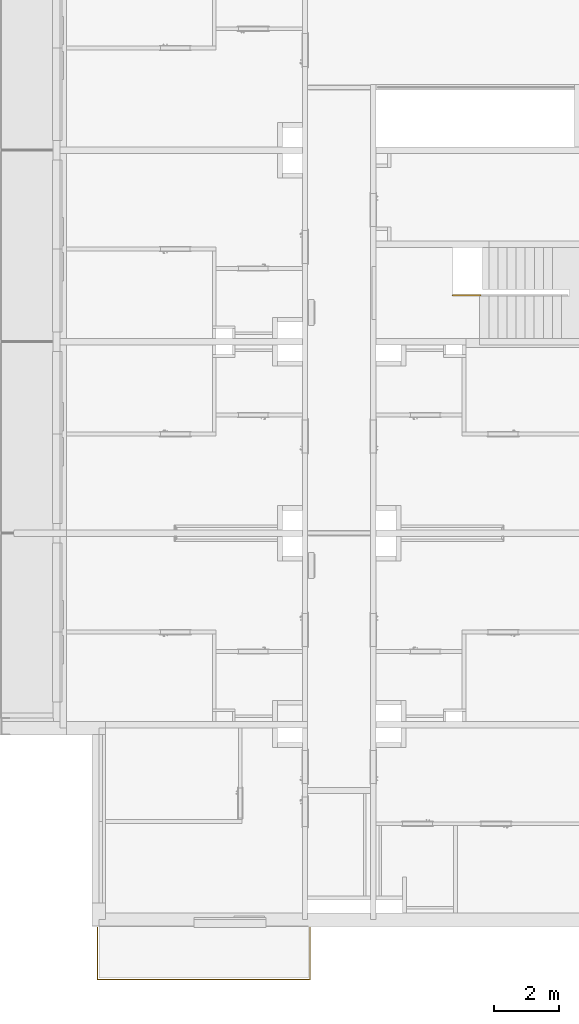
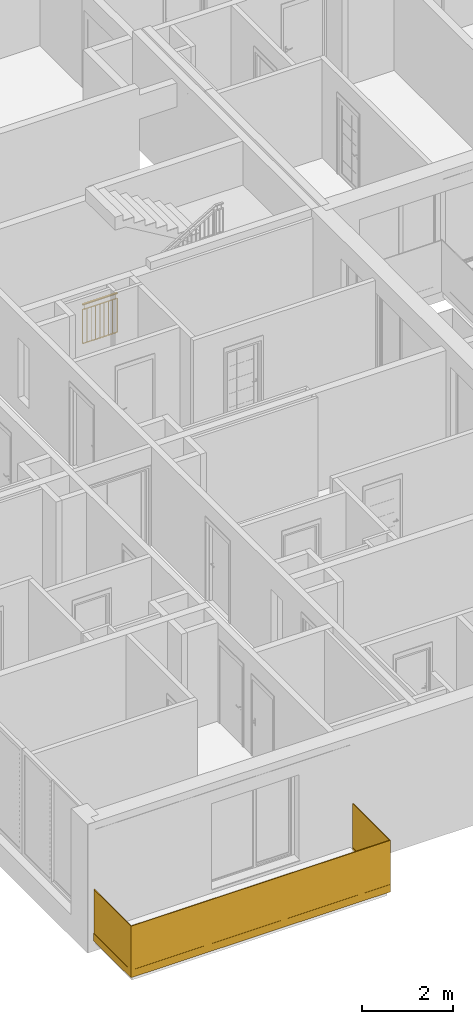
# One storey, part 3 of 67: 2 railings.
"""IFC2X3 building model written with IfcOpenShell, lengths in millimetres."""

from ifc_helpers import new_model, entity, si_unit, converted_unit, derived_unit, money_unit, direction, frame, origin_with_axes, place, context, subcontext, project, spatial, faceted_brep, material, material_list, type_object, element, save


model = new_model("IFC2X3")

# Units and contexts
model_context = context("Model", 3, precision=0.01, world=origin_with_axes(), true_north=direction((0.34421633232, 0.938890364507)))
body_context = subcontext(model_context, "Body", "Model", "MODEL_VIEW")
ifc_project = project(units=[si_unit("LENGTHUNIT", "METRE", prefix="MILLI"), si_unit("AREAUNIT", "SQUARE_METRE"), si_unit("VOLUMEUNIT", "CUBIC_METRE"), converted_unit("PLANEANGLEUNIT", "DEGREE", entity("IfcPlaneAngleMeasure", 0.0174532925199), si_unit("PLANEANGLEUNIT", "RADIAN"), dimensions=[0, 0, 0, 0, 0, 0, 0]), si_unit("SOLIDANGLEUNIT", "STERADIAN"), money_unit("USD"), converted_unit("TIMEUNIT", "Year", entity("IfcTimeMeasure", 31556926.0), si_unit("TIMEUNIT", "SECOND"), dimensions=[0, 0, 1, 0, 0, 0, 0]), si_unit("MASSUNIT", "GRAM", prefix="KILO"), si_unit("THERMODYNAMICTEMPERATUREUNIT", "DEGREE_CELSIUS"), si_unit("LUMINOUSINTENSITYUNIT", "LUMEN"), si_unit("ENERGYUNIT", "JOULE", prefix="MEGA"), derived_unit("THERMALCONDUCTANCEUNIT", [(si_unit("POWERUNIT", "WATT"), 1), (si_unit("LENGTHUNIT", "METRE"), -1), (si_unit("THERMODYNAMICTEMPERATUREUNIT", "KELVIN"), -1)]), derived_unit("SPECIFICHEATCAPACITYUNIT", [(si_unit("ENERGYUNIT", "JOULE"), 1), (si_unit("MASSUNIT", "GRAM", prefix="KILO"), -1), (si_unit("THERMODYNAMICTEMPERATUREUNIT", "KELVIN"), -1)]), derived_unit("MASSDENSITYUNIT", [(si_unit("MASSUNIT", "GRAM", prefix="KILO"), 1), (si_unit("VOLUMEUNIT", "CUBIC_METRE"), -1)])], contexts=[model_context])

# Site, building, storey
site_placement = place(None, origin_with_axes())
site = spatial("IfcSite", under=ifc_project, at=site_placement, Name="USTRONIE MORSKIE", CompositionType="ELEMENT")
building_placement = place(site_placement, origin_with_axes())
building = spatial("IfcBuilding", under=site, at=building_placement, Name="Budynek", CompositionType="ELEMENT")
storey_placement = place(building_placement, frame((0.0, 0.0, 4000.0), z_axis=(0.0, 0.0, 1.0), x_axis=(1.0, 0.0, 0.0)))
storey = spatial("IfcBuildingStorey", under=building, at=storey_placement, Name="PIĘTRO 1", CompositionType="ELEMENT", Elevation=4000.0)

# Railings
ifc_material_1 = material(Name="Szkło struktualne")
ifc_material_2 = material(Name="Profile aluminiowe")
ifc_material_list_1 = material_list([ifc_material_1, ifc_material_2, ifc_material_1, ifc_material_2, ifc_material_1, ifc_material_2])
railing_type = type_object("IfcRailingType", Name="Typ balustrady", PredefinedType="NOTDEFINED")
railing_1_placement = place(storey_placement, frame((357617.920919, 708891.199036, 0.0), z_axis=(0.0, 0.0, 1.0), x_axis=(1.0, 0.0, 0.0)))
element("IfcRailing", 1, at=railing_1_placement, inside=storey, type_object=railing_type, material=ifc_material_list_1, Name="BL1", PredefinedType="NOTDEFINED", context=body_context, shape_type="Brep", body=[
    faceted_brep([(59.9999997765, -19.9999996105, -300.00000039), (59.9999997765, -19.9999996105, 1069.99999972), (59.9999997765, -1649.9999995, 1069.99999972), (59.9999997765, -1649.9999995, -300.00000039), (40.0000002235, -19.9999996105, 1069.99999972), (40.0000002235, -19.9999996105, -300.00000039), (40.0000002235, -1629.99999995, 1069.99999972), (40.0000002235, -1629.99999995, -300.00000039)], [[[0, 1, 2, 3]], [[4, 1, 0, 5]], [[2, 1, 4, 6]], [[3, 2, 6, 7]], [[5, 0, 3, 7]], [[6, 4, 5, 7]]]),
    faceted_brep([(35.0, -1640.0, -105.0), (35.0, -20.0, -105.0), (35.0, -20.0, -305.0), (35.0, -1640.0, -305.0), (40.0, -1640.0, -105.0), (40.0, -20.0, -105.0), (40.0, -20.0, -300.0), (60.0, -20.0, -300.0), (60.0, -20.0, -105.0), (65.0, -20.0, -105.0), (65.0, -20.0, -305.0), (65.0, -1640.0, -305.0), (65.0, -1640.0, -105.0), (60.0, -1640.0, -105.0), (60.0, -1640.0, -300.0), (40.0, -1640.0, -300.0)], [[[0, 1, 2, 3]], [[1, 0, 4, 5]], [[6, 7, 8, 9, 10, 2, 1, 5]], [[10, 11, 3, 2]], [[11, 12, 13, 14, 15, 4, 0, 3]], [[15, 6, 5, 4]], [[7, 6, 15, 14]], [[8, 7, 14, 13]], [[9, 8, 13, 12]], [[11, 10, 9, 12]]]),
    faceted_brep([(60.000000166, -1649.99999978, -300.00000039), (60.000000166, -1649.99999978, 1069.99999972), (-6510.00000013, -1649.99999978, 1069.99999972), (-6510.00000013, -1649.99999978, -300.00000039), (40.000000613, -1630.00000022, 1069.99999972), (40.000000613, -1630.00000022, -300.00000039), (-6490.00000058, -1630.00000022, 1069.99999972), (-6490.00000058, -1630.00000022, -300.00000039)], [[[0, 1, 2, 3]], [[4, 1, 0, 5]], [[2, 1, 4, 6]], [[3, 2, 6, 7]], [[5, 0, 3, 7]], [[6, 4, 5, 7]]]),
    faceted_brep([(-6500.0, -1625.0, -105.0), (50.0, -1625.0, -105.0), (50.0, -1625.0, -305.0), (-6500.0, -1625.0, -305.0), (-6500.0, -1630.0, -105.0), (50.0, -1630.0, -105.0), (50.0, -1630.0, -300.0), (50.0, -1650.0, -300.0), (50.0, -1650.0, -105.0), (50.0, -1655.0, -105.0), (50.0, -1655.0, -305.0), (-6500.0, -1655.0, -305.0), (-6500.0, -1655.0, -105.0), (-6500.0, -1650.0, -105.0), (-6500.0, -1650.0, -300.0), (-6500.0, -1630.0, -300.0)], [[[0, 1, 2, 3]], [[1, 0, 4, 5]], [[6, 7, 8, 9, 10, 2, 1, 5]], [[10, 11, 3, 2]], [[11, 12, 13, 14, 15, 4, 0, 3]], [[15, 6, 5, 4]], [[7, 6, 15, 14]], [[8, 7, 14, 13]], [[9, 8, 13, 12]], [[11, 10, 9, 12]]]),
    faceted_brep([(-6509.99999978, -1650.00000017, -300.00000039), (-6509.99999978, -1650.00000017, 1069.99999972), (-6509.99999978, -19.9993222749, 1069.99999972), (-6509.99999978, -19.9993222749, -300.00000039), (-6490.00000022, -1630.00000061, 1069.99999972), (-6490.00000022, -1630.00000061, -300.00000039), (-6490.00000022, -19.9993222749, 1069.99999972), (-6490.00000022, -19.9993222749, -300.00000039)], [[[0, 1, 2, 3]], [[4, 1, 0, 5]], [[2, 1, 4, 6]], [[3, 2, 6, 7]], [[5, 0, 3, 7]], [[6, 4, 5, 7]]]),
    faceted_brep([(-6485.0, -19.9993224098, -105.0), (-6485.0, -1640.0, -105.0), (-6485.0, -1640.0, -305.0), (-6485.0, -19.9993224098, -305.0), (-6490.0, -19.9993224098, -105.0), (-6490.0, -1640.0, -105.0), (-6490.0, -1640.0, -300.0), (-6510.0, -1640.0, -300.0), (-6510.0, -1640.0, -105.0), (-6515.0, -1640.0, -105.0), (-6515.0, -1640.0, -305.0), (-6515.0, -19.9993224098, -305.0), (-6515.0, -19.9993224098, -105.0), (-6510.0, -19.9993224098, -105.0), (-6510.0, -19.9993224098, -300.0), (-6490.0, -19.9993224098, -300.0)], [[[0, 1, 2, 3]], [[1, 0, 4, 5]], [[6, 7, 8, 9, 10, 2, 1, 5]], [[10, 11, 3, 2]], [[11, 12, 13, 14, 15, 4, 0, 3]], [[15, 6, 5, 4]], [[7, 6, 15, 14]], [[8, 7, 14, 13]], [[9, 8, 13, 12]], [[11, 10, 9, 12]]]),
])
ifc_material_3 = material(Name="Stal konstrukcyjna")
ifc_material_4 = material(Name="Stal nierdzewna")
ifc_material_list_2 = material_list([ifc_material_3, ifc_material_3, ifc_material_4, ifc_material_4, ifc_material_4, ifc_material_3, ifc_material_3, ifc_material_3, ifc_material_3, ifc_material_3, ifc_material_3, ifc_material_3])
railing_2_placement = place(storey_placement, frame((362057.920919, 728301.19902, 190.561166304), z_axis=(0.0, 0.0, 1.0), x_axis=(1.0, 0.0, 0.0)))
element("IfcRailing", 2, at=railing_2_placement, inside=storey, type_object=railing_type, material=ifc_material_list_2, Name="BL1", PredefinedType="NOTDEFINED", context=body_context, shape_type="Brep", body=[
    faceted_brep([(9.99999999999, 25.0, -150.0), (9.99999999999, 45.0, -150.0), (9.99999999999, 45.0, 750.0), (9.99999999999, 25.0, 750.0), (-9.99999999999, 25.0, -150.0), (-9.99999999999, 45.0, -150.0), (5.0, 30.0, -150.0), (5.0, 40.0, -150.0), (-5.0, 40.0, -150.0), (-5.0, 30.0, -150.0), (-9.99999999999, 45.0, 750.0), (-9.99999999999, 25.0, 750.0), (5.0, 30.0, 750.0), (-5.0, 30.0, 750.0), (-5.0, 40.0, 750.0), (5.0, 40.0, 750.0)], [[[0, 1, 2, 3]], [[0, 4, 5, 1], [6, 7, 8, 9]], [[1, 5, 10, 2]], [[3, 2, 10, 11], [12, 13, 14, 15]], [[4, 0, 3, 11]], [[5, 4, 11, 10]], [[7, 6, 12, 15]], [[8, 7, 15, 14]], [[9, 8, 14, 13]], [[6, 9, 13, 12]]]),
    faceted_brep([(891.23326509, 25.0, -150.0), (891.23326509, 45.0, -150.0), (891.23326509, 45.0, 750.0), (891.23326509, 25.0, 750.0), (871.23326509, 25.0, -150.0), (871.23326509, 45.0, -150.0), (886.23326509, 30.0, -150.0), (886.23326509, 40.0, -150.0), (876.23326509, 40.0, -150.0), (876.23326509, 30.0, -150.0), (871.23326509, 45.0, 750.0), (871.23326509, 25.0, 750.0), (886.23326509, 30.0, 750.0), (876.23326509, 30.0, 750.0), (876.23326509, 40.0, 750.0), (886.23326509, 40.0, 750.0)], [[[0, 1, 2, 3]], [[0, 4, 5, 1], [6, 7, 8, 9]], [[1, 5, 10, 2]], [[3, 2, 10, 11], [12, 13, 14, 15]], [[4, 0, 3, 11]], [[5, 4, 11, 10]], [[7, 6, 12, 15]], [[8, 7, 15, 14]], [[9, 8, 14, 13]], [[6, 9, 13, 12]]]),
    faceted_brep([(0.0, 9.99999999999, 900.0), (0.0, 9.99999999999, 875.0), (881.23326509, 9.99999999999, 875.0), (881.23326509, 9.99999999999, 900.0), (0.0, 59.9999999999, 900.0), (0.0, 59.9999999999, 875.0), (0.0, 45.0, 875.0), (0.0, 45.0, 880.0), (0.0, 25.0, 880.0), (0.0, 25.0, 875.0), (881.23326509, 25.0, 875.0), (881.23326509, 25.0, 880.0), (881.23326509, 45.0, 880.0), (881.23326509, 45.0, 875.0), (881.23326509, 59.9999999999, 875.0), (881.23326509, 59.9999999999, 900.0)], [[[0, 1, 2, 3]], [[0, 4, 5, 6, 7, 8, 9, 1]], [[1, 9, 10, 2]], [[3, 2, 10, 11, 12, 13, 14, 15]], [[4, 0, 3, 15]], [[5, 4, 15, 14]], [[6, 5, 14, 13]], [[7, 6, 13, 12]], [[8, 7, 12, 11]], [[9, 8, 11, 10]]]),
    faceted_brep([(0.0, 25.0, 875.0), (0.0, 45.0, 875.0), (881.23326509, 45.0, 875.0), (881.23326509, 25.0, 875.0), (0.0, 25.0, 880.0), (0.0, 45.0, 880.0), (881.23326509, 45.0, 880.0), (881.23326509, 25.0, 880.0)], [[[0, 1, 2, 3]], [[0, 4, 5, 1]], [[1, 5, 6, 2]], [[3, 2, 6, 7]], [[4, 0, 3, 7]], [[5, 4, 7, 6]]]),
    faceted_brep([(52.5, 25.0, 755.0), (52.5, 45.0, 755.0), (52.5, 45.0, 875.0), (52.5, 25.0, 875.0), (47.5, 25.0, 755.0), (47.5, 45.0, 755.0), (47.5, 45.0, 875.0), (47.5, 25.0, 875.0)], [[[0, 1, 2, 3]], [[0, 4, 5, 1]], [[1, 5, 6, 2]], [[3, 2, 6, 7]], [[4, 0, 3, 7]], [[5, 4, 7, 6]]]),
    faceted_brep([(833.73326509, 25.0, 755.0), (833.73326509, 45.0, 755.0), (833.73326509, 45.0, 875.0), (833.73326509, 25.0, 875.0), (828.73326509, 25.0, 755.0), (828.73326509, 45.0, 755.0), (828.73326509, 45.0, 875.0), (828.73326509, 25.0, 875.0)], [[[0, 1, 2, 3]], [[0, 4, 5, 1]], [[1, 5, 6, 2]], [[3, 2, 6, 7]], [[4, 0, 3, 7]], [[5, 4, 7, 6]]]),
    faceted_brep([(0.0, 15.0, 750.0), (0.0, 15.0, 745.0), (881.23326509, 15.0, 745.0), (881.23326509, 15.0, 750.0), (0.0, 54.9999999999, 750.0), (0.0, 54.9999999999, 745.0), (881.23326509, 54.9999999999, 745.0), (881.23326509, 54.9999999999, 750.0)], [[[0, 1, 2, 3]], [[0, 4, 5, 1]], [[1, 5, 6, 2]], [[3, 2, 6, 7]], [[4, 0, 3, 7]], [[5, 4, 7, 6]]]),
    faceted_brep([(0.0, 15.0, -157.5), (0.0, 15.0, -162.5), (881.23326509, 15.0, -162.5), (881.23326509, 15.0, -157.5), (0.0, 54.9999999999, -157.5), (0.0, 54.9999999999, -162.5), (881.23326509, 54.9999999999, -162.5), (881.23326509, 54.9999999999, -157.5)], [[[0, 1, 2, 3]], [[0, 4, 5, 1]], [[1, 5, 6, 2]], [[3, 2, 6, 7]], [[4, 0, 3, 7]], [[5, 4, 7, 6]]]),
    faceted_brep([(118.116632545, 20.0, -150.0), (118.116632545, 50.0, -150.0), (118.116632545, 50.0, 740.0), (118.116632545, 20.0, 740.0), (113.116632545, 20.0, -150.0), (113.116632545, 50.0, -150.0), (113.116632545, 50.0, 740.0), (113.116632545, 20.0, 740.0)], [[[0, 1, 2, 3]], [[0, 4, 5, 1]], [[1, 5, 6, 2]], [[3, 2, 6, 7]], [[4, 0, 3, 7]], [[5, 4, 7, 6]]]),
    faceted_brep([(228.949965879, 22.4999999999, -150.0), (228.949965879, 47.5, -150.0), (228.949965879, 47.5, 740.0), (228.949965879, 22.4999999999, 740.0), (218.949965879, 22.4999999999, -150.0), (218.949965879, 47.5, -150.0), (218.949965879, 47.5, 740.0), (218.949965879, 22.4999999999, 740.0)], [[[0, 1, 2, 3]], [[0, 4, 5, 1]], [[1, 5, 6, 2]], [[3, 2, 6, 7]], [[4, 0, 3, 7]], [[5, 4, 7, 6]]]),
    faceted_brep([(337.283299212, 22.4999999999, -150.0), (337.283299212, 47.5, -150.0), (337.283299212, 47.5, 740.0), (337.283299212, 22.4999999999, 740.0), (327.283299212, 22.4999999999, -150.0), (327.283299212, 47.5, -150.0), (327.283299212, 47.5, 740.0), (327.283299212, 22.4999999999, 740.0)], [[[0, 1, 2, 3]], [[0, 4, 5, 1]], [[1, 5, 6, 2]], [[3, 2, 6, 7]], [[4, 0, 3, 7]], [[5, 4, 7, 6]]]),
    faceted_brep([(445.616632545, 22.4999999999, -150.0), (445.616632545, 47.5, -150.0), (445.616632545, 47.5, 740.0), (445.616632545, 22.4999999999, 740.0), (435.616632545, 22.4999999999, -150.0), (435.616632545, 47.5, -150.0), (435.616632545, 47.5, 740.0), (435.616632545, 22.4999999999, 740.0)], [[[0, 1, 2, 3]], [[0, 4, 5, 1]], [[1, 5, 6, 2]], [[3, 2, 6, 7]], [[4, 0, 3, 7]], [[5, 4, 7, 6]]]),
    faceted_brep([(553.949965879, 22.4999999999, -150.0), (553.949965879, 47.5, -150.0), (553.949965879, 47.5, 740.0), (553.949965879, 22.4999999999, 740.0), (543.949965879, 22.4999999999, -150.0), (543.949965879, 47.5, -150.0), (543.949965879, 47.5, 740.0), (543.949965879, 22.4999999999, 740.0)], [[[0, 1, 2, 3]], [[0, 4, 5, 1]], [[1, 5, 6, 2]], [[3, 2, 6, 7]], [[4, 0, 3, 7]], [[5, 4, 7, 6]]]),
    faceted_brep([(662.283299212, 22.4999999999, -150.0), (662.283299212, 47.5, -150.0), (662.283299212, 47.5, 740.0), (662.283299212, 22.4999999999, 740.0), (652.283299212, 22.4999999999, -150.0), (652.283299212, 47.5, -150.0), (652.283299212, 47.5, 740.0), (652.283299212, 22.4999999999, 740.0)], [[[0, 1, 2, 3]], [[0, 4, 5, 1]], [[1, 5, 6, 2]], [[3, 2, 6, 7]], [[4, 0, 3, 7]], [[5, 4, 7, 6]]]),
    faceted_brep([(768.116632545, 20.0, -150.0), (768.116632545, 50.0, -150.0), (768.116632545, 50.0, 740.0), (768.116632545, 20.0, 740.0), (763.116632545, 20.0, -150.0), (763.116632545, 50.0, -150.0), (763.116632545, 50.0, 740.0), (763.116632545, 20.0, 740.0)], [[[0, 1, 2, 3]], [[0, 4, 5, 1]], [[1, 5, 6, 2]], [[3, 2, 6, 7]], [[4, 0, 3, 7]], [[5, 4, 7, 6]]]),
])

save(model, "model.ifc")
